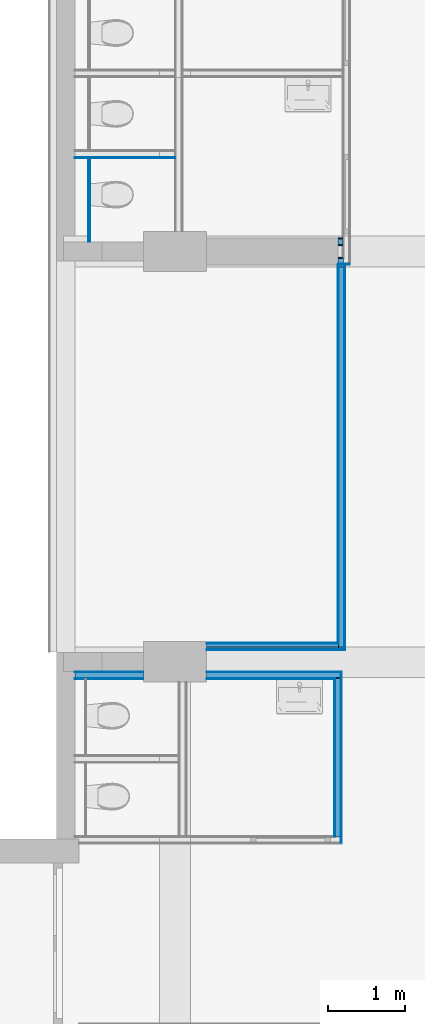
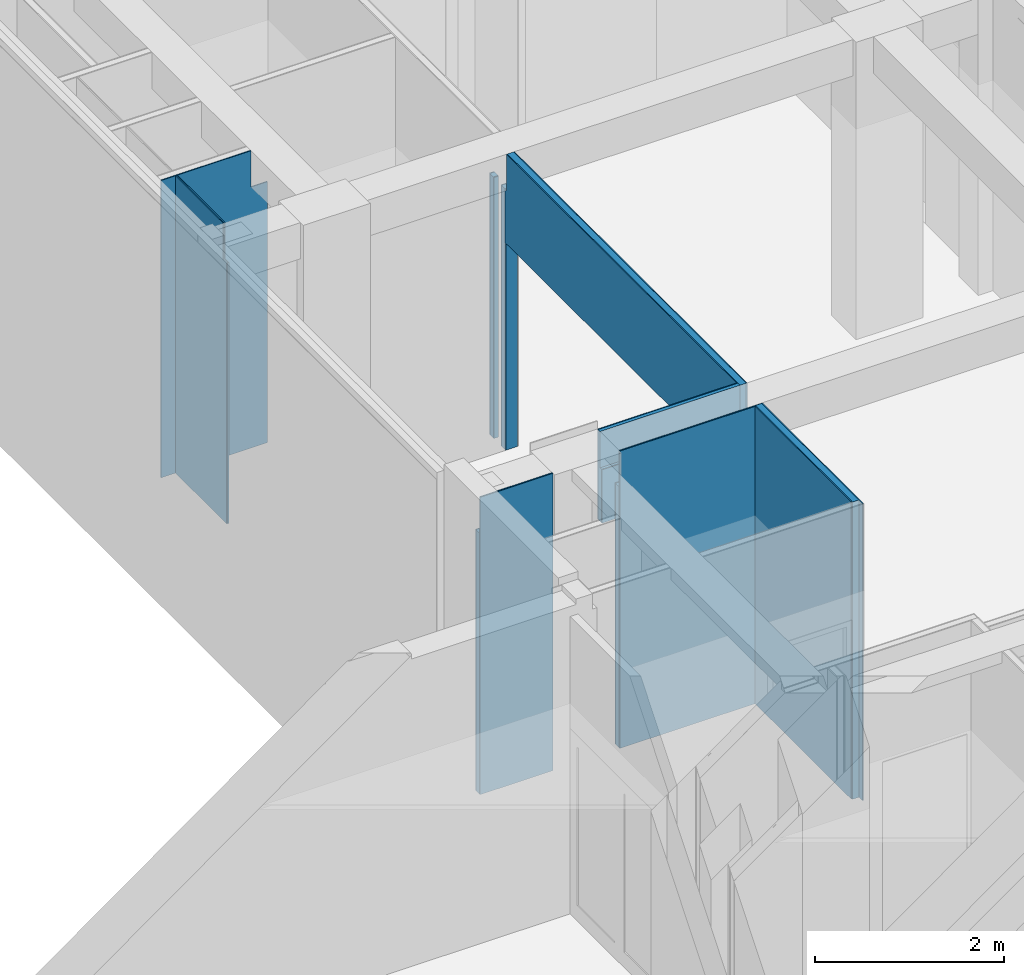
# One storey, part 106 of 135: 21 building element parts, 8 elements without a shape of their own.
"""IFC2X3 building model written with IfcOpenShell, lengths in millimetres."""

from ifc_helpers import new_model, entity, si_unit, converted_unit, derived_unit, money_unit, direction, frame, origin_with_axes, place, context, subcontext, project, spatial, faceted_brep, material, type_object, element, aggregate, save


model = new_model("IFC2X3")

# Units and contexts
model_context = context("Model", 3, precision=0.01, world=origin_with_axes(), true_north=direction((0.0, 1.0)))
body_context = subcontext(model_context, "Body", "Model", "MODEL_VIEW")
ifc_project = project(units=[si_unit("LENGTHUNIT", "METRE", prefix="MILLI"), si_unit("AREAUNIT", "SQUARE_METRE"), si_unit("VOLUMEUNIT", "CUBIC_METRE"), converted_unit("PLANEANGLEUNIT", "DEGREE", entity("IfcPlaneAngleMeasure", 0.0174532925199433), si_unit("PLANEANGLEUNIT", "RADIAN"), dimensions=[0, 0, 0, 0, 0, 0, 0]), money_unit("EUR"), converted_unit("TIMEUNIT", "Year", entity("IfcTimeMeasure", 31557600.0), si_unit("TIMEUNIT", "SECOND"), dimensions=[0, 0, 1, 0, 0, 0, 0]), si_unit("MASSUNIT", "GRAM", prefix="KILO"), si_unit("THERMODYNAMICTEMPERATUREUNIT", "DEGREE_CELSIUS"), si_unit("LUMINOUSINTENSITYUNIT", "LUMEN"), si_unit("ENERGYUNIT", "JOULE", prefix="MEGA"), derived_unit("THERMALCONDUCTANCEUNIT", [(si_unit("POWERUNIT", "WATT"), 1), (si_unit("LENGTHUNIT", "METRE"), -1), (si_unit("THERMODYNAMICTEMPERATUREUNIT", "KELVIN"), -1)]), derived_unit("SPECIFICHEATCAPACITYUNIT", [(si_unit("ENERGYUNIT", "JOULE"), 1), (si_unit("MASSUNIT", "GRAM", prefix="KILO"), -1), (si_unit("THERMODYNAMICTEMPERATUREUNIT", "KELVIN"), -1)]), derived_unit("MASSDENSITYUNIT", [(si_unit("MASSUNIT", "GRAM", prefix="KILO"), 1), (si_unit("VOLUMEUNIT", "CUBIC_METRE"), -1)])], contexts=[model_context])

# Site, building, storey
site_placement = place(None, origin_with_axes())
site = spatial("IfcSite", under=ifc_project, at=site_placement, Name="Site", CompositionType="ELEMENT")
building_placement = place(site_placement, origin_with_axes())
building = spatial("IfcBuilding", under=site, at=building_placement, Name="Naam gebouw", CompositionType="ELEMENT")
storey_placement = place(building_placement, origin_with_axes())
storey = spatial("IfcBuildingStorey", under=building, at=storey_placement, Name="Begane grond N", CompositionType="ELEMENT", Elevation=0.0)

# Wall, building element parts
wall_type_1 = type_object("IfcWallType", Name="Metalstud iso 100 100", PredefinedType="NOTDEFINED")
wall_1_placement = place(storey_placement, frame((24013.81290066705, 28130.91242510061, 0.0), z_axis=(0.0, 0.0, 1.0), x_axis=(-1.0, 0.0, 0.0)))
wall_1 = element("IfcWall", 1, at=wall_1_placement, inside=storey, type_object=wall_type_1, Name="_Wand-x")
ifc_material_1 = material(Name="Gipsplaat")
building_element_part_1_placement = place(wall_1_placement, origin_with_axes())
building_element_part_1 = element("IfcBuildingElementPart", 2, at=building_element_part_1_placement, material=ifc_material_1, Name="Gipsplaat", context=body_context, shape_type="Brep", body=[
    faceted_brep([(58.36862987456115, 87.49999999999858, 3379.998087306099), (0.0, 87.49999999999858, 3379.998087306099), (0.0, 87.49999999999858, 0.0), (58.36862987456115, 87.49999999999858, 0.0), (0.0, 100.0000000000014, 3379.998087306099), (58.36862987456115, 100.0000000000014, 3379.998087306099), (0.0, 100.0000000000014, 0.0), (58.36862987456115, 100.0000000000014, 0.0)], [[[0, 1, 2, 3]], [[4, 1, 0, 5]], [[1, 4, 6, 2]], [[2, 6, 7, 3]], [[5, 0, 3, 7]], [[4, 5, 7, 6]]]),
])
ifc_material_2 = material(Name="Isolatie - Steenwol LSW")
building_element_part_2_placement = place(wall_1_placement, origin_with_axes())
building_element_part_2 = element("IfcBuildingElementPart", 3, at=building_element_part_2_placement, material=ifc_material_2, Name="Isolatie - Steenwol LSW", context=body_context, shape_type="Brep", body=[
    faceted_brep([(58.36862987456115, 12.49999999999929, 3379.998087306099), (0.0, 12.49999999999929, 3379.998087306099), (0.0, 12.49999999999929, 0.0), (58.36862987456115, 12.49999999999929, 0.0), (0.0, 87.49999999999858, 3379.998087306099), (58.36862987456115, 87.49999999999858, 3379.998087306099), (0.0, 87.49999999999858, 0.0), (58.36862987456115, 87.49999999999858, 0.0)], [[[0, 1, 2, 3]], [[4, 1, 0, 5]], [[1, 4, 6, 2]], [[2, 6, 7, 3]], [[5, 0, 3, 7]], [[4, 5, 7, 6]]]),
])
building_element_part_3_placement = place(wall_1_placement, origin_with_axes())
building_element_part_3 = element("IfcBuildingElementPart", 4, at=building_element_part_3_placement, material=ifc_material_1, Name="Gipsplaat", context=body_context, shape_type="Brep", body=[
    faceted_brep([(58.36862987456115, 0.0, 3379.998087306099), (0.0, 0.0, 3379.998087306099), (0.0, 0.0, 0.0), (58.36862987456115, 0.0, 0.0), (0.0, 12.49999999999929, 3379.998087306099), (58.36862987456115, 12.49999999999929, 3379.998087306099), (0.0, 12.49999999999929, 0.0), (58.36862987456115, 12.49999999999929, 0.0)], [[[0, 1, 2, 3]], [[4, 1, 0, 5]], [[1, 4, 6, 2]], [[2, 6, 7, 3]], [[5, 0, 3, 7]], [[4, 5, 7, 6]]]),
])
aggregate(wall_1, [building_element_part_1, building_element_part_2, building_element_part_3])

wall_2_placement = place(storey_placement, frame((23903.00006881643, 22500.91242510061, 0.0), z_axis=(0.0, 0.0, 1.0), x_axis=(-1.0, 0.0, 0.0)))
wall_2 = element("IfcWall", 5, at=wall_2_placement, inside=storey, type_object=wall_type_1, Name="_Wand-x")
building_element_part_4_placement = place(wall_2_placement, origin_with_axes())
building_element_part_4 = element("IfcBuildingElementPart", 6, at=building_element_part_4_placement, material=ifc_material_1, Name="Gipsplaat", context=body_context, shape_type="Brep", body=[
    faceted_brep([(2477.000068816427, 100.0000000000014, 3850.0), (2477.000068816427, 87.49999999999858, 3850.0), (3367.000068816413, 87.49999999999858, 3850.0), (3367.000068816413, 100.0000000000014, 3850.0), (2477.000068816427, 87.49999999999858, 0.0), (2477.000068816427, 100.0000000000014, 0.0), (3367.000068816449, 87.49999999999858, 0.0), (3367.000068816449, 100.0000000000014, 0.0)], [[[0, 1, 2, 3]], [[4, 1, 0, 5]], [[1, 4, 6, 2]], [[6, 7, 3, 2]], [[5, 0, 3, 7]], [[4, 5, 7, 6]]]),
    faceted_brep([(1657.000068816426, 87.49999999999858, 0.0), (1657.000068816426, 87.49999999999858, 3850.0), (-12.49999999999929, 87.49999999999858, 3850.0), (-12.49999999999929, 87.49999999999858, 0.0), (1657.000068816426, 100.0000000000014, 3850.0), (1657.000068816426, 100.0000000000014, 0.0), (-12.49999999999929, 100.0000000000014, 3850.0), (-12.49999999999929, 100.0000000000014, 0.0)], [[[0, 1, 2, 3]], [[4, 1, 0, 5]], [[1, 4, 6, 2]], [[7, 3, 2, 6]], [[5, 0, 3, 7]], [[4, 5, 7, 6]]]),
])
building_element_part_5_placement = place(wall_2_placement, origin_with_axes())
building_element_part_5 = element("IfcBuildingElementPart", 7, at=building_element_part_5_placement, material=ifc_material_2, Name="Isolatie - Steenwol LSW", context=body_context, shape_type="Brep", body=[
    faceted_brep([(2477.000068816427, 80.8146167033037, 3379.997412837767), (2477.000068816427, 12.49999999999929, 3379.997412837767), (3367.000068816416, 12.49999999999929, 3379.997412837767), (3367.000068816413, 80.8146167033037, 3379.997412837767), (2477.000068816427, 12.49999999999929, 0.0), (2477.000068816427, 80.8146167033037, 3850.0), (2477.000068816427, 87.49999999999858, 3850.0), (2477.000068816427, 87.49999999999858, 0.0), (3367.000068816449, 12.49999999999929, 0.0), (3367.000068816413, 80.8146167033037, 3850.0), (3367.000068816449, 87.49999999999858, 0.0), (3367.000068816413, 87.49999999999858, 3850.0)], [[[0, 1, 2, 3]], [[4, 1, 0, 5, 6, 7]], [[1, 4, 8, 2]], [[9, 3, 2, 8, 10, 11]], [[5, 0, 3, 9]], [[6, 5, 9, 11]], [[7, 6, 11, 10]], [[4, 7, 10, 8]]]),
    faceted_brep([(1657.000068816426, 12.49999999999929, 0.0), (1657.000068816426, 12.49999999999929, 3379.997412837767), (-87.49999999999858, 12.49999999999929, 3379.997412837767), (-87.49999999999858, 12.49999999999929, 0.0), (1657.000068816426, 80.8146167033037, 3379.997412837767), (1657.000068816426, 87.49999999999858, 0.0), (1657.000068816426, 87.49999999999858, 3850.0), (1657.000068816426, 80.8146167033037, 3850.0), (-87.49999999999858, 80.8146167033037, 3379.997412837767), (-87.49999999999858, 80.8146167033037, 3850.0), (-87.49999999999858, 87.49999999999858, 3850.0), (-87.49999999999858, 87.49999999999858, 0.0)], [[[0, 1, 2, 3]], [[4, 1, 0, 5, 6, 7]], [[1, 4, 8, 2]], [[2, 8, 9, 10, 11, 3]], [[5, 0, 3, 11]], [[6, 5, 11, 10]], [[7, 6, 10, 9]], [[4, 7, 9, 8]]]),
])
building_element_part_6_placement = place(wall_2_placement, origin_with_axes())
building_element_part_6 = element("IfcBuildingElementPart", 8, at=building_element_part_6_placement, material=ifc_material_1, Name="Gipsplaat", context=body_context, shape_type="Brep", body=[
    faceted_brep([(2477.000068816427, 12.49999999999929, 3379.997412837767), (2477.000068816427, 0.0, 3379.997412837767), (3367.000068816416, 0.0, 3379.997412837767), (3367.000068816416, 12.49999999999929, 3379.997412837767), (2477.000068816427, 0.0, 0.0), (2477.000068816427, 12.49999999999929, 0.0), (3367.000068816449, 0.0, 0.0), (3367.000068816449, 12.49999999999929, 0.0)], [[[0, 1, 2, 3]], [[4, 1, 0, 5]], [[1, 4, 6, 2]], [[7, 3, 2, 6]], [[5, 0, 3, 7]], [[4, 5, 7, 6]]]),
    faceted_brep([(1657.000068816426, 0.0, 0.0), (1657.000068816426, 0.0, 3379.997412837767), (-100.0000000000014, 0.0, 3379.997412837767), (-100.0000000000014, 0.0, 0.0), (1657.000068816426, 12.49999999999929, 3379.997412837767), (1657.000068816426, 12.49999999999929, 0.0), (-100.0000000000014, 12.49999999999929, 3379.997412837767), (-100.0000000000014, 12.49999999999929, 0.0)], [[[0, 1, 2, 3]], [[4, 1, 0, 5]], [[1, 4, 6, 2]], [[3, 2, 6, 7]], [[5, 0, 3, 7]], [[4, 5, 7, 6]]]),
])
aggregate(wall_2, [building_element_part_4, building_element_part_5, building_element_part_6])

wall_type_2 = type_object("IfcWallType", Name="Metalstud voorzetwand 200 200", PredefinedType="NOTDEFINED")
wall_3_placement = place(storey_placement, frame((20535.99999999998, 29168.41242510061, 0.0), z_axis=(0.0, 0.0, 1.0), x_axis=(0.0, -1.0, 0.0)))
wall_3 = element("IfcWall", 9, at=wall_3_placement, inside=storey, type_object=wall_type_2, Name="_Wand-x")
building_element_part_7_placement = place(wall_3_placement, origin_with_axes())
building_element_part_7 = element("IfcBuildingElementPart", 10, at=building_element_part_7_placement, material=ifc_material_1, Name="Gipsplaat", context=body_context, shape_type="Brep", body=[
    faceted_brep([(1087.499999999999, 187.5, 3379.998087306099), (1087.499999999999, 199.9999999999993, 3379.998087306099), (1012.499999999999, 199.9999999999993, 3379.998087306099), (1012.499999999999, 187.5, 3379.998087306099), (1087.499999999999, 199.9999999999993, 0.0), (1087.499999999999, 187.5, 0.0), (0.0, 199.9999999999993, 0.0), (0.0, 199.9999999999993, 3850.000000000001), (1012.499999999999, 199.9999999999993, 3850.000000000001), (1012.499999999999, 187.5, 3850.000000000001), (0.0, 187.5, 3850.000000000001), (0.0, 187.5, 0.0)], [[[0, 1, 2, 3]], [[4, 1, 0, 5]], [[1, 4, 6, 7, 8, 2]], [[3, 2, 8, 9]], [[5, 0, 3, 9, 10, 11]], [[4, 5, 11, 6]], [[6, 11, 10, 7]], [[10, 9, 8, 7]]]),
])
building_element_part_8_placement = place(wall_3_placement, origin_with_axes())
building_element_part_8 = element("IfcBuildingElementPart", 11, at=building_element_part_8_placement, material=ifc_material_1, Name="Gipsplaat", context=body_context, shape_type="Brep", body=[
    faceted_brep([(1087.499999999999, 175.0000000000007, 3379.998087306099), (1087.499999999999, 187.5, 3379.998087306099), (1012.499999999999, 187.5, 3379.998087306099), (1012.499999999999, 175.0000000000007, 3379.998087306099), (1087.499999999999, 187.5, 0.0), (1087.499999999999, 175.0000000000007, 0.0), (0.0, 187.5, 0.0), (0.0, 187.5, 3850.000000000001), (1012.499999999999, 187.5, 3850.000000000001), (1012.499999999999, 175.0000000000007, 3850.000000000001), (0.0, 175.0000000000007, 3850.000000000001), (0.0, 175.0000000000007, 0.0)], [[[0, 1, 2, 3]], [[4, 1, 0, 5]], [[1, 4, 6, 7, 8, 2]], [[3, 2, 8, 9]], [[5, 0, 3, 9, 10, 11]], [[4, 5, 11, 6]], [[6, 11, 10, 7]], [[10, 9, 8, 7]]]),
])
aggregate(wall_3, [building_element_part_7, building_element_part_8])

wall_4_placement = place(storey_placement, frame((23949.04265616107, 27780.91242510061, 2690.0), z_axis=(0.0, 0.0, 1.0), x_axis=(0.0, -1.0, 0.0)))
wall_4 = element("IfcWall", 12, at=wall_4_placement, inside=storey, type_object=wall_type_1, Name="_Wand-x")
building_element_part_9_placement = place(wall_4_placement, origin_with_axes())
building_element_part_9 = element("IfcBuildingElementPart", 13, at=building_element_part_9_placement, material=ifc_material_2, Name="Isolatie - Steenwol LSW", context=body_context, shape_type="Brep", body=[
    faceted_brep([(0.0, 12.49999999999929, 689.9980873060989), (0.0, 87.49999999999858, 689.9980873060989), (0.0, 87.49999999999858, 0.0), (0.0, 12.49999999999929, 0.0), (24.99999999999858, 87.49999999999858, 689.9980873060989), (24.99999999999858, 12.49999999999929, 689.9980873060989), (24.99999999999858, 87.49999999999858, 1160.000000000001), (4960.814616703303, 87.49999999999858, 1160.000000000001), (4960.814616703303, 87.49999999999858, 689.997412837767), (4992.499999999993, 87.49999999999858, 689.997412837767), (4992.499999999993, 87.49999999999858, 0.0), (4992.499999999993, 12.49999999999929, 0.0), (4992.499999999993, 12.49999999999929, 689.997412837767), (4960.814616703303, 12.49999999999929, 689.997412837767), (4960.814616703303, 12.49999999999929, 1160.000000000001), (24.99999999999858, 12.49999999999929, 1160.000000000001)], [[[0, 1, 2, 3]], [[4, 1, 0, 5]], [[4, 6, 7, 8, 9, 10, 2, 1]], [[10, 11, 3, 2]], [[5, 0, 3, 11, 12, 13, 14, 15]], [[15, 6, 4, 5]], [[6, 15, 14, 7]], [[8, 7, 14, 13]], [[9, 8, 13, 12]], [[9, 12, 11, 10]]]),
])
building_element_part_10_placement = place(wall_4_placement, origin_with_axes())
building_element_part_10 = element("IfcBuildingElementPart", 14, at=building_element_part_10_placement, material=ifc_material_1, Name="Gipsplaat", context=body_context, shape_type="Brep", body=[
    faceted_brep([(0.0, 87.49999999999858, 689.9980873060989), (0.0, 100.0000000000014, 689.9980873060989), (0.0, 100.0000000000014, 0.0), (0.0, 87.49999999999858, 0.0), (24.99999999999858, 99.99999999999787, 689.9980873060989), (24.99999999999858, 87.49999999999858, 689.9980873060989), (24.99999999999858, 100.0000000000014, 1160.000000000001), (4960.814616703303, 99.99999999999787, 1160.000000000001), (4960.814616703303, 99.99999999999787, 689.997412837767), (5004.999999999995, 99.99999999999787, 689.997412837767), (5004.999999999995, 99.99999999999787, 0.0), (5004.999999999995, 87.49999999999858, 0.0), (5004.999999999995, 87.49999999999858, 689.997412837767), (4960.814616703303, 87.49999999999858, 689.997412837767), (4960.814616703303, 87.49999999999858, 1160.000000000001), (24.99999999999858, 87.49999999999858, 1160.000000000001)], [[[0, 1, 2, 3]], [[4, 1, 0, 5]], [[4, 6, 7, 8, 9, 10, 2, 1]], [[10, 11, 3, 2]], [[5, 0, 3, 11, 12, 13, 14, 15]], [[15, 6, 4, 5]], [[6, 15, 14, 7]], [[8, 7, 14, 13]], [[9, 8, 13, 12]], [[9, 12, 11, 10]]]),
])
building_element_part_11_placement = place(wall_4_placement, origin_with_axes())
building_element_part_11 = element("IfcBuildingElementPart", 15, at=building_element_part_11_placement, material=ifc_material_1, Name="Gipsplaat", context=body_context, shape_type="Brep", body=[
    faceted_brep([(0.0, 0.0, 689.9980873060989), (0.0, 12.49999999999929, 689.9980873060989), (0.0, 12.49999999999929, 0.0), (0.0, 0.0, 0.0), (24.99999999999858, 12.49999999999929, 689.9980873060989), (24.99999999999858, 0.0, 689.9980873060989), (24.99999999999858, 12.49999999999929, 1160.000000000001), (4917.499999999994, 12.49999999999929, 1160.000000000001), (4917.499999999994, 12.49999999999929, 0.0), (4917.499999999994, 0.0, 0.0), (4917.499999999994, 0.0, 1160.000000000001), (24.99999999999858, 0.0, 1160.000000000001)], [[[0, 1, 2, 3]], [[4, 1, 0, 5]], [[4, 6, 7, 8, 2, 1]], [[8, 9, 3, 2]], [[5, 0, 3, 9, 10, 11]], [[11, 6, 4, 5]], [[6, 11, 10, 7]], [[7, 10, 9, 8]]]),
])
aggregate(wall_4, [building_element_part_9, building_element_part_10, building_element_part_11])

wall_5_placement = place(storey_placement, frame((23949.04265616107, 22875.91242510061, 2690.0), z_axis=(0.0, 0.0, 1.0), x_axis=(-1.0, 0.0, 0.0)))
wall_5 = element("IfcWall", 16, at=wall_5_placement, inside=storey, type_object=wall_type_1, Name="_Wand-x")
building_element_part_12_placement = place(wall_5_placement, origin_with_axes())
building_element_part_12 = element("IfcBuildingElementPart", 17, at=building_element_part_12_placement, material=ifc_material_1, Name="Gipsplaat", context=body_context, shape_type="Brep", body=[
    faceted_brep([(1703.042833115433, 87.49999999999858, 0.0), (1703.042833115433, 87.49999999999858, 689.997412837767), (-87.49999999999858, 87.49999999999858, 689.997412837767), (-87.49999999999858, 87.49999999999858, 0.0), (1703.042833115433, 100.0000000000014, 0.0), (1703.042833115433, 100.0000000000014, 689.997412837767), (-87.49999999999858, 100.0000000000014, 689.997412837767), (-87.49999999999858, 100.0000000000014, 0.0)], [[[0, 1, 2, 3]], [[4, 5, 1, 0]], [[5, 6, 2, 1]], [[3, 2, 6, 7]], [[3, 7, 4, 0]], [[7, 6, 5, 4]]]),
])
building_element_part_13_placement = place(wall_5_placement, origin_with_axes())
building_element_part_13 = element("IfcBuildingElementPart", 18, at=building_element_part_13_placement, material=ifc_material_2, Name="Isolatie - Steenwol LSW", context=body_context, shape_type="Brep", body=[
    faceted_brep([(1703.042833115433, 12.49999999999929, 1160.000000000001), (1703.042833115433, 55.81461670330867, 1160.000000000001), (-12.49999999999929, 55.81461670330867, 1160.000000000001), (-12.49999999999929, 12.49999999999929, 1160.000000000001), (1703.042833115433, 87.49999999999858, 689.997412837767), (1703.042833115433, 55.81461670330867, 689.997412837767), (1703.042833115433, 12.49999999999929, 0.0), (1703.042833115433, 87.49999999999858, 0.0), (-12.49999999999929, 55.81461670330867, 689.997412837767), (-12.49999999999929, 87.49999999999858, 689.997412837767), (-12.49999999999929, 87.49999999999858, 0.0), (-12.49999999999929, 12.49999999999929, 0.0)], [[[0, 1, 2, 3]], [[4, 5, 1, 0, 6, 7]], [[5, 8, 2, 1]], [[2, 8, 9, 10, 11, 3]], [[3, 11, 6, 0]], [[4, 9, 8, 5]], [[11, 10, 7, 6]], [[10, 9, 4, 7]]]),
])
building_element_part_14_placement = place(wall_5_placement, origin_with_axes())
building_element_part_14 = element("IfcBuildingElementPart", 19, at=building_element_part_14_placement, material=ifc_material_1, Name="Gipsplaat", context=body_context, shape_type="Brep", body=[
    faceted_brep([(0.0, 0.0, 1160.000000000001), (1703.042833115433, 0.0, 1160.000000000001), (1703.042833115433, 12.49999999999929, 1160.000000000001), (0.0, 12.49999999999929, 1160.000000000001), (0.0, 0.0, 0.0), (1703.042833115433, 0.0, 0.0), (1703.042833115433, 12.49999999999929, 0.0), (0.0, 12.49999999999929, 0.0)], [[[0, 1, 2, 3]], [[4, 5, 1, 0]], [[2, 1, 5, 6]], [[3, 2, 6, 7]], [[4, 0, 3, 7]], [[7, 6, 5, 4]]]),
])
aggregate(wall_5, [building_element_part_12, building_element_part_13, building_element_part_14])

wall_6_placement = place(storey_placement, frame((24013.81290066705, 27780.91242510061, 0.0), z_axis=(0.0, 0.0, 1.0), x_axis=(-1.0, 0.0, 0.0)))
wall_6 = element("IfcWall", 20, at=wall_6_placement, inside=storey, type_object=wall_type_1, Name="_Wand-x")
building_element_part_15_placement = place(wall_6_placement, origin_with_axes())
building_element_part_15 = element("IfcBuildingElementPart", 21, at=building_element_part_15_placement, material=ifc_material_1, Name="Gipsplaat", context=body_context, shape_type="Brep", body=[
    faceted_brep([(58.36862987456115, -12.49999999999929, 3379.998087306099), (-87.49999999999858, -12.49999999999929, 3379.998087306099), (-87.49999999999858, -12.49999999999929, 0.0), (58.36862987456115, -12.49999999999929, 0.0), (-87.49999999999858, 0.0, 3379.998087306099), (58.36862987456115, 0.0, 3379.998087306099), (-87.49999999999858, 0.0, 0.0), (58.36862987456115, 0.0, 0.0)], [[[0, 1, 2, 3]], [[4, 1, 0, 5]], [[1, 4, 6, 2]], [[2, 6, 7, 3]], [[5, 0, 3, 7]], [[4, 5, 7, 6]]]),
])
building_element_part_16_placement = place(wall_6_placement, origin_with_axes())
building_element_part_16 = element("IfcBuildingElementPart", 22, at=building_element_part_16_placement, material=ifc_material_2, Name="Isolatie - Steenwol LSW", context=body_context, shape_type="Brep", body=[
    faceted_brep([(58.36862987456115, -87.49999999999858, 3379.998087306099), (-12.49999999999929, -87.49999999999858, 3379.998087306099), (-12.49999999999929, -87.49999999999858, 0.0), (58.36862987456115, -87.49999999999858, 0.0), (-12.49999999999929, -12.49999999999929, 3379.998087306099), (58.36862987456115, -12.49999999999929, 3379.998087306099), (-12.49999999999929, -12.49999999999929, 0.0), (58.36862987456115, -12.49999999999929, 0.0)], [[[0, 1, 2, 3]], [[4, 1, 0, 5]], [[1, 4, 6, 2]], [[2, 6, 7, 3]], [[5, 0, 3, 7]], [[4, 5, 7, 6]]]),
])
building_element_part_17_placement = place(wall_6_placement, origin_with_axes())
building_element_part_17 = element("IfcBuildingElementPart", 23, at=building_element_part_17_placement, material=ifc_material_1, Name="Gipsplaat", context=body_context, shape_type="Brep", body=[
    faceted_brep([(58.36862987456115, -100.0000000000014, 3379.998087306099), (0.0, -100.0000000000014, 3379.998087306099), (0.0, -100.0000000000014, 0.0), (58.36862987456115, -100.0000000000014, 0.0), (0.0, -87.49999999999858, 3379.998087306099), (58.36862987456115, -87.49999999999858, 3379.998087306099), (0.0, -87.49999999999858, 0.0), (58.36862987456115, -87.49999999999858, 0.0)], [[[0, 1, 2, 3]], [[4, 1, 0, 5]], [[1, 4, 6, 2]], [[2, 6, 7, 3]], [[5, 0, 3, 7]], [[4, 5, 7, 6]]]),
])
aggregate(wall_6, [building_element_part_15, building_element_part_16, building_element_part_17])

wall_7_placement = place(storey_placement, frame((23903.00006881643, 20263.41242510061, 0.0), z_axis=(0.0, 0.0, 1.0), x_axis=(0.0, 1.0, 0.0)))
wall_7 = element("IfcWall", 24, at=wall_7_placement, inside=storey, type_object=wall_type_1, Name="_Wand-x")
building_element_part_18_placement = place(wall_7_placement, origin_with_axes())
building_element_part_18 = element("IfcBuildingElementPart", 25, at=building_element_part_18_placement, material=ifc_material_1, Name="Gipsplaat", context=body_context, shape_type="Brep", body=[
    faceted_brep([(2137.499999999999, 0.0, 3850.0), (2137.499999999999, -12.49999999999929, 3850.0), (2137.499999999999, -12.49999999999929, 0.0), (2137.499999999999, 0.0, 0.0), (100.0000000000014, -12.49999999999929, 3850.0), (100.0000000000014, 0.0, 3850.0), (100.0000000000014, -12.49999999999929, 0.0), (100.0000000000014, 0.0, 0.0)], [[[0, 1, 2, 3]], [[4, 1, 0, 5]], [[1, 4, 6, 2]], [[3, 2, 6, 7]], [[5, 0, 3, 7]], [[4, 5, 7, 6]]]),
])
building_element_part_19_placement = place(wall_7_placement, origin_with_axes())
building_element_part_19 = element("IfcBuildingElementPart", 26, at=building_element_part_19_placement, material=ifc_material_2, Name="Isolatie - Steenwol LSW", context=body_context, shape_type="Brep", body=[
    faceted_brep([(2150.000000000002, -12.49999999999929, 3850.0), (2150.000000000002, -87.49999999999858, 3850.0), (2150.000000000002, -87.49999999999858, 0.0), (2150.000000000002, -12.49999999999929, 0.0), (87.49999999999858, -87.49999999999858, 3850.0), (87.49999999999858, -12.49999999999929, 3850.0), (87.49999999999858, -87.49999999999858, 0.0), (87.49999999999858, -12.49999999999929, 0.0)], [[[0, 1, 2, 3]], [[4, 1, 0, 5]], [[1, 4, 6, 2]], [[3, 2, 6, 7]], [[5, 0, 3, 7]], [[4, 5, 7, 6]]]),
])
building_element_part_20_placement = place(wall_7_placement, origin_with_axes())
building_element_part_20 = element("IfcBuildingElementPart", 27, at=building_element_part_20_placement, material=ifc_material_1, Name="Gipsplaat", context=body_context, shape_type="Brep", body=[
    faceted_brep([(2225.000000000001, -87.49999999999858, 3379.997412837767), (2225.000000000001, -100.0000000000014, 3379.997412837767), (2225.000000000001, -100.0000000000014, 0.0), (2225.000000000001, -87.49999999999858, 0.0), (2156.685383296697, -100.0000000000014, 3379.997412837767), (2156.685383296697, -87.49999999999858, 3379.997412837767), (2156.685383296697, -100.0000000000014, 3850.0), (12.49999999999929, -100.0000000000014, 3850.0), (12.49999999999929, -100.0000000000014, 0.0), (12.49999999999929, -87.49999999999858, 0.0), (12.49999999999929, -87.49999999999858, 3850.0), (2156.685383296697, -87.49999999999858, 3850.0)], [[[0, 1, 2, 3]], [[4, 1, 0, 5]], [[4, 6, 7, 8, 2, 1]], [[9, 3, 2, 8]], [[5, 0, 3, 9, 10, 11]], [[11, 6, 4, 5]], [[6, 11, 10, 7]], [[8, 7, 10, 9]]]),
])
aggregate(wall_7, [building_element_part_18, building_element_part_19, building_element_part_20])

# Wall, building element part
wall_8_placement = place(storey_placement, frame((20535.99999999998, 29218.41242510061, 0.0), z_axis=(0.0, 0.0, 1.0), x_axis=(1.0, 0.0, 0.0)))
wall_8 = element("IfcWall", 28, at=wall_8_placement, inside=storey, type_object=wall_type_1, Name="_Wand-x")
building_element_part_21_placement = place(wall_8_placement, origin_with_axes())
building_element_part_21 = element("IfcBuildingElementPart", 29, at=building_element_part_21_placement, material=ifc_material_1, Name="Gipsplaat", context=body_context, shape_type="Brep", body=[
    faceted_brep([(1100.000000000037, -37.49999999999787, 3850.0), (1100.000000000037, -37.50000000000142, 3379.998173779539), (1300.000000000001, -37.49999999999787, 3379.998503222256), (1300.000000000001, -37.50000000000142, 0.0), (0.0, -37.50000000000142, 0.0), (0.0, -37.50000000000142, 3850.0), (1100.000000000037, -50.00000000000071, 3850.0), (1100.000000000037, -50.00000000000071, 3379.998172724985), (1300.000000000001, -50.00000000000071, 3379.998503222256), (1300.000000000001, -50.00000000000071, 0.0), (0.0, -50.00000000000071, 0.0), (0.0, -50.00000000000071, 3850.0)], [[[0, 1, 2, 3, 4, 5]], [[1, 0, 6, 7]], [[8, 2, 1, 7]], [[2, 8, 9, 3]], [[3, 9, 10, 4]], [[10, 11, 5, 4]], [[6, 0, 5, 11]], [[7, 6, 11, 10, 9, 8]]]),
])
aggregate(wall_8, [building_element_part_21])

save(model, "model.ifc")
